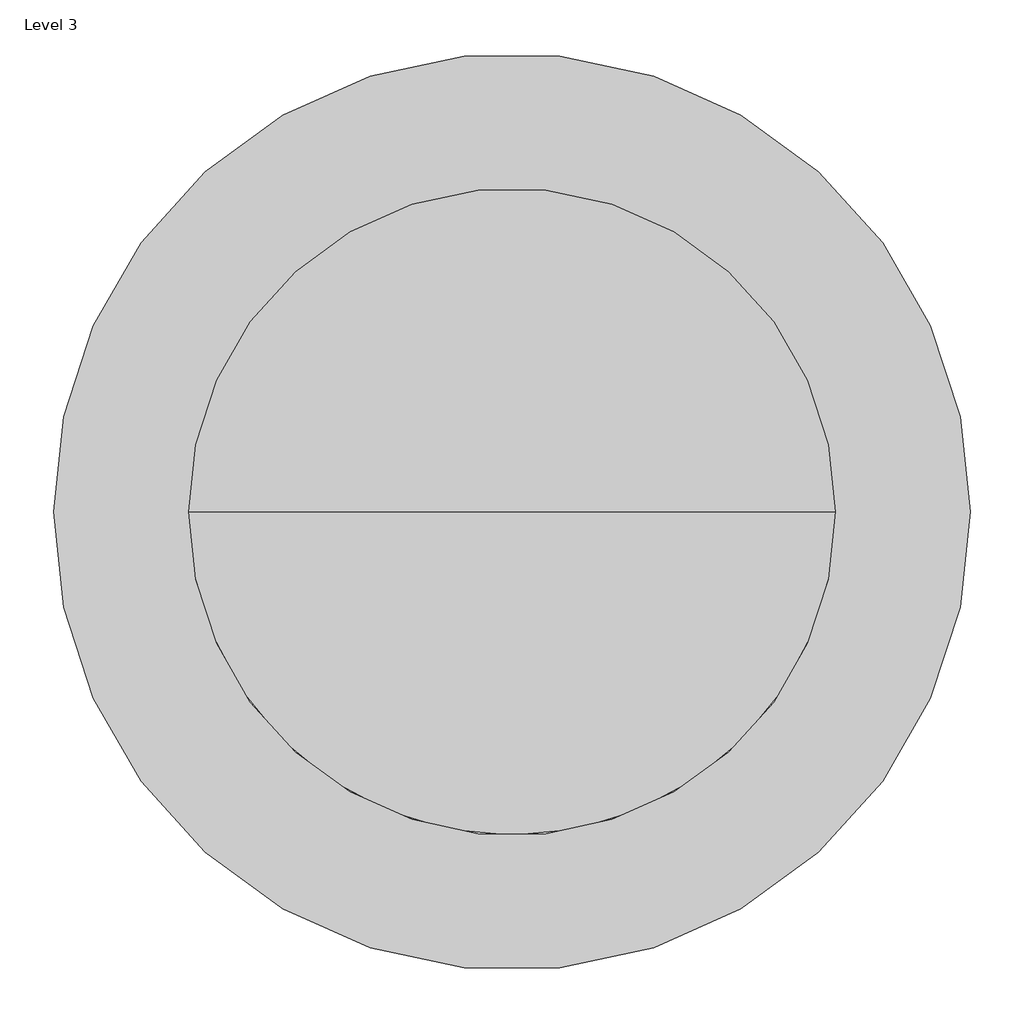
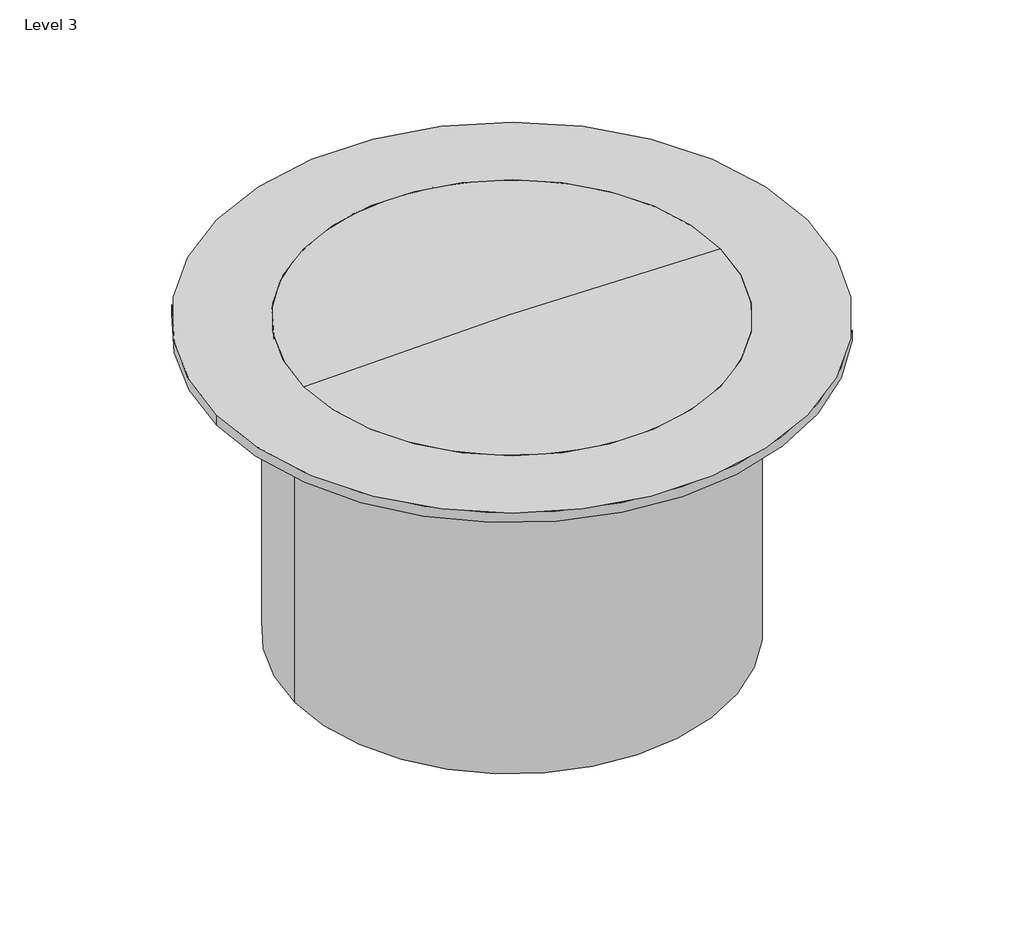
# One storey: 1 proxy.
"""IFC4 building model written with IfcOpenShell, lengths in millimetres."""

import ifcopenshell
import ifcopenshell.guid

model = None  # the IFC model being written
_history = None  # IfcOwnerHistory: only IFC2X3 demands one
_inside = {}  # id of a spatial element -> (the spatial element, [elements in it])
_under = {}  # id of a project, library or spatial element -> (it, [spatial elements below it])
_declared = {}  # id of a project -> (the project, [libraries it declares])
_typed = {}  # id of a type object -> (the type object, [elements of that type])
_made_of = {}  # id of a material, layer set ... -> (it, [elements and type objects made of it])


def new_model(schema):
    """Start an empty IFC model of exactly this schema.

    Asked for "IFC4X3", IfcOpenShell would pick the latest addendum, in which some entities
    have other attributes; the version numbers below select the first issue.
    IFC2X3 requires an IfcOwnerHistory on every rooted entity: one is made here for all.
    """
    global model, _history
    if schema == "IFC4X3":
        model = ifcopenshell.file(schema_version=(4, 3, 0, 0))
    else:
        model = ifcopenshell.file(schema=schema)
    _inside.clear()
    _under.clear()
    _declared.clear()
    _typed.clear()
    _made_of.clear()
    _history = None
    if model.schema == "IFC2X3":
        org = make("IfcOrganization", Name="unknown")
        user = make(
            "IfcPersonAndOrganization",
            ThePerson=make("IfcPerson", FamilyName="unknown"),
            TheOrganization=org,
        )
        app = make(
            "IfcApplication",
            ApplicationDeveloper=org,
            Version="unknown",
            ApplicationFullName="unknown",
            ApplicationIdentifier="unknown",
        )
        _history = make(
            "IfcOwnerHistory",
            OwningUser=user,
            OwningApplication=app,
            ChangeAction="ADDED",
            CreationDate=0,
        )
    return model


def make(cls, **values):
    """One entity of the class cls with the attributes given. An attribute that is None is left unset."""
    return model.create_entity(
        cls, **{name: value for name, value in values.items() if value is not None}
    )


def rooted(cls, **values):
    """An entity with a GlobalId (a new one), such as an element, a storey or a relation."""
    return make(cls, GlobalId=ifcopenshell.guid.new(), OwnerHistory=_history, **values)


def si_unit(unit_type, name, prefix=None):
    """IfcSIUnit, for example si_unit("LENGTHUNIT", "METRE", prefix="MILLI")."""
    return make("IfcSIUnit", UnitType=unit_type, Prefix=prefix, Name=name)


def assignment(units):
    """IfcUnitAssignment: the units of a project."""
    return None if units is None else make("IfcUnitAssignment", Units=units)


def point(xyz):
    """IfcCartesianPoint."""
    return None if xyz is None else make("IfcCartesianPoint", Coordinates=xyz)


def direction(xyz):
    """IfcDirection."""
    return None if xyz is None else make("IfcDirection", DirectionRatios=xyz)


def frame(location, z_axis=None, x_axis=None):
    """IfcAxis2Placement3D, a coordinate frame: its origin and axes. An axis left out is left unset."""
    return make(
        "IfcAxis2Placement3D",
        Location=point(location),
        Axis=direction(z_axis),
        RefDirection=direction(x_axis),
    )


def frame_2d(location, x_axis=None):
    """IfcAxis2Placement2D, a coordinate frame in the plane: its origin and x axis."""
    return make(
        "IfcAxis2Placement2D", Location=point(location), RefDirection=direction(x_axis)
    )


def origin():
    """The frame at (0, 0, 0) with its axes left unset."""
    return frame((0.0, 0.0, 0.0))


def origin_2d():
    """The frame at (0, 0) in the plane with its x axis left unset."""
    return frame_2d((0.0, 0.0))


def place(relative_to, where):
    """IfcLocalPlacement: puts the frame where relative to a parent placement (None: the world)."""
    return make(
        "IfcLocalPlacement", PlacementRelTo=relative_to, RelativePlacement=where
    )


def context(
    kind, dimensions, precision=None, world=None, true_north=None, identifier=None
):
    """IfcGeometricRepresentationContext, for example the 3D "Model" context."""
    return make(
        "IfcGeometricRepresentationContext",
        ContextIdentifier=identifier,
        ContextType=kind,
        CoordinateSpaceDimension=dimensions,
        Precision=precision,
        WorldCoordinateSystem=world,
        TrueNorth=true_north,
    )


def project(units=None, contexts=None):
    """IfcProject with its units and contexts."""
    return rooted(
        "IfcProject",
        Name="project",
        RepresentationContexts=contexts,
        UnitsInContext=assignment(units),
    )


def spatial(cls, under=None, at=None, **own):
    """A site, building, storey or space (cls), placed at a placement, below another one or the project."""
    s = rooted(cls, ObjectPlacement=at, **own)
    if under is not None:
        _under.setdefault(under.id(), (under, []))[1].append(s)
    return s


def polyline(points):
    """IfcPolyline through the points."""
    return make("IfcPolyline", Points=[point(p) for p in points])


def circle_curve(where, radius):
    """IfcCircle in the frame where."""
    return make("IfcCircle", Position=where, Radius=radius)


def ellipse_curve(where, semi_axis1, semi_axis2):
    """IfcEllipse in the frame where."""
    return make(
        "IfcEllipse", Position=where, SemiAxis1=semi_axis1, SemiAxis2=semi_axis2
    )


def trimmed(basis, trim1, trim2, sense, master):
    """IfcTrimmedCurve: the piece of a basis curve between two trims."""
    return make(
        "IfcTrimmedCurve",
        BasisCurve=basis,
        Trim1=trim1,
        Trim2=trim2,
        SenseAgreement=sense,
        MasterRepresentation=master,
    )


def segment(curve, same_sense, transition):
    """IfcCompositeCurveSegment."""
    return make(
        "IfcCompositeCurveSegment",
        Transition=transition,
        SameSense=same_sense,
        ParentCurve=curve,
    )


def composite_curve(segments, self_intersect=None):
    """IfcCompositeCurve: segments joined end to end."""
    return make("IfcCompositeCurve", Segments=segments, SelfIntersect=self_intersect)


def outline(outer, holes=None, kind="AREA"):
    """IfcArbitraryClosedProfileDef: a profile drawn as a closed curve; with holes, ...WithVoids."""
    if holes is None:
        return make("IfcArbitraryClosedProfileDef", ProfileType=kind, OuterCurve=outer)
    return make(
        "IfcArbitraryProfileDefWithVoids",
        ProfileType=kind,
        OuterCurve=outer,
        InnerCurves=holes,
    )


def extrude(swept, where, along, depth):
    """IfcExtrudedAreaSolid: the profile swept, set in the frame where, extruded along a direction by depth."""
    return make(
        "IfcExtrudedAreaSolid",
        SweptArea=swept,
        Position=where,
        ExtrudedDirection=direction(along),
        Depth=depth,
    )


def shape(context_of_items, identifier, shape_type, items):
    """IfcShapeRepresentation: the items that make up one representation, for example the "Body"."""
    return make(
        "IfcShapeRepresentation",
        ContextOfItems=context_of_items,
        RepresentationIdentifier=identifier,
        RepresentationType=shape_type,
        Items=items,
    )


def source(mapping_origin, context_of_items, identifier, shape_type, items):
    """IfcRepresentationMap: a shape defined once, which mapped items show again and again."""
    return make(
        "IfcRepresentationMap",
        MappingOrigin=mapping_origin,
        MappedRepresentation=shape(context_of_items, identifier, shape_type, items),
    )


def transform(
    local_origin,
    x_axis=None,
    y_axis=None,
    z_axis=None,
    scale=None,
    scale2=None,
    scale3=None,
    uniform=True,
):
    """IfcCartesianTransformationOperator3D, or its non-uniform kind. x_axis, y_axis, z_axis: its Axis1, 2, 3."""
    if uniform:
        return make(
            "IfcCartesianTransformationOperator3D",
            Axis1=direction(x_axis),
            Axis2=direction(y_axis),
            LocalOrigin=point(local_origin),
            Scale=scale,
            Axis3=direction(z_axis),
        )
    return make(
        "IfcCartesianTransformationOperator3DnonUniform",
        Axis1=direction(x_axis),
        Axis2=direction(y_axis),
        LocalOrigin=point(local_origin),
        Scale=scale,
        Axis3=direction(z_axis),
        Scale2=scale2,
        Scale3=scale3,
    )


def mapped(mapping_source, mapping_target):
    """IfcMappedItem: shows the shape of a source again, moved by a transform."""
    return make(
        "IfcMappedItem", MappingSource=mapping_source, MappingTarget=mapping_target
    )


def made_of(thing, what):
    """Note that an element or type object is made of a material, layer set ...; save() writes the relation."""
    if what is not None:
        _made_of.setdefault(what.id(), (what, []))[1].append(thing)
    return thing


def element(
    cls,
    number,
    at=None,
    inside=None,
    cuts=None,
    type_object=None,
    material=None,
    context=None,
    identifier="Body",
    shape_type=None,
    held_by="IfcProductDefinitionShape",
    body=None,
    shapes=None,
    **own,
):
    """One element of the class cls, such as IfcWall. Its Tag is "e" and its number.

    at: its placement. inside: the storey or other place that contains it. cuts: it is an
    opening in that element (IfcRelVoidsElement). A single representation is given by context,
    identifier, shape_type and body (its items); several are given by shapes. held_by: the class
    of the entity that holds the representations. save() writes the other relations.
    """
    e = rooted(cls, Tag="e%d" % number, ObjectPlacement=at, **own)
    if body is not None:
        shapes = [shape(context, identifier, shape_type, body)]
    if shapes is not None:
        e.Representation = make(held_by, Representations=shapes)
    if inside is not None:
        _inside.setdefault(inside.id(), (inside, []))[1].append(e)
    if cuts is not None:
        rooted(
            "IfcRelVoidsElement", RelatingBuildingElement=cuts, RelatedOpeningElement=e
        )
    if type_object is not None:
        _typed.setdefault(type_object.id(), (type_object, []))[1].append(e)
    return made_of(e, material)


def aggregate(whole, parts):
    """IfcRelAggregates: a whole, such as a stair, and the parts it consists of."""
    return rooted("IfcRelAggregates", RelatingObject=whole, RelatedObjects=parts)


def save(model, path):
    """Write the relations noted so far, then the file.

    IfcRelAggregates (storeys below a building ...), IfcRelContainedInSpatialStructure (elements
    in a storey), IfcRelDefinesByType, IfcRelAssociatesMaterial and IfcRelDeclares: one each for
    every whole, place, type object, material and project.
    """
    for whole, parts in _under.values():
        aggregate(whole, parts)
    for where, things in _inside.values():
        rooted(
            "IfcRelContainedInSpatialStructure",
            RelatedElements=things,
            RelatingStructure=where,
        )
    for kind, things in _typed.values():
        rooted("IfcRelDefinesByType", RelatedObjects=things, RelatingType=kind)
    for what, things in _made_of.values():
        rooted("IfcRelAssociatesMaterial", RelatedObjects=things, RelatingMaterial=what)
    for by, libraries in _declared.values():
        rooted("IfcRelDeclares", RelatingContext=by, RelatedDefinitions=libraries)
    model.write(path)


def plane_surface(at):
    """IfcPlane: the flat surface through the origin of the frame at, square to its z axis."""
    return make("IfcPlane", Position=at)


def cylinder_surface(at, radius):
    """IfcCylindricalSurface: all points at the distance radius from the z axis of the frame at."""
    return make("IfcCylindricalSurface", Position=at, Radius=radius)


def revolved_surface(curve, axis_point, axis_direction):
    """IfcSurfaceOfRevolution: the curve turned about the line through axis_point along axis_direction."""
    return make(
        "IfcSurfaceOfRevolution",
        SweptCurve=make("IfcArbitraryOpenProfileDef", ProfileType="CURVE", Curve=curve),
        AxisPosition=make("IfcAxis1Placement", Location=point(axis_point), Axis=direction(axis_direction)),
    )


def advanced_brep(points, edges, surfaces, faces):
    """IfcAdvancedBrep: a solid bounded by faces that lie on surfaces and meet in shared edges.

    An edge is (start, end): straight between two places in points (the first is 0);
    or (start, end, curve); or (start, end, curve, False) where it runs against its curve.
    A face is (place in surfaces, loops), or (place, loops, False) where it looks against
    its surface's normal. A loop lists edges by number (the first is 1), with a minus sign
    where the edge is run from its end to its start. The first loop is the outer one.
    """
    corners = [point(p) for p in points]
    vertices = [make("IfcVertexPoint", VertexGeometry=c) for c in corners]
    made = []
    for start, end, *more in edges:
        made.append(
            make(
                "IfcEdgeCurve",
                EdgeStart=vertices[start],
                EdgeEnd=vertices[end],
                EdgeGeometry=more[0] if more else make("IfcPolyline", Points=[corners[start], corners[end]]),
                SameSense=more[1] if len(more) > 1 else True,
            )
        )
    hull = []
    for where, loops, *sense in faces:
        bounds = []
        for j, loop in enumerate(loops):
            ring = [make("IfcOrientedEdge", EdgeElement=made[abs(k) - 1], Orientation=k > 0) for k in loop]
            bounds.append(
                make(
                    "IfcFaceOuterBound" if j == 0 else "IfcFaceBound",
                    Bound=make("IfcEdgeLoop", EdgeList=ring),
                    Orientation=True,
                )
            )
        hull.append(make("IfcAdvancedFace", Bounds=bounds, FaceSurface=surfaces[where], SameSense=sense[0] if sense else True))
    return make("IfcAdvancedBrep", Outer=make("IfcClosedShell", CfsFaces=hull))


def specialty_equipment_5184973a(model_context):
    return source(origin(), model_context, "Body", "SolidModel", [
        extrude(outline(composite_curve([segment(trimmed(circle_curve(origin_2d(), 425.0), [point((-425.0, 0.0))], [point((425.0, 0.0))], False, "CARTESIAN"), True, "CONTINUOUS"), segment(trimmed(circle_curve(origin_2d(), 425.0), [point((425.0, 0.0))], [point((-425.0, 0.0))], False, "CARTESIAN"), True, "CONTINUOUS")], self_intersect=False), holes=[composite_curve([segment(trimmed(circle_curve(origin_2d(), 300.0), [point((-300.0, 0.0))], [point((300.0, 0.0))], True, "CARTESIAN"), True, "CONTINUOUS"), segment(trimmed(circle_curve(origin_2d(), 300.0), [point((300.0, 0.0))], [point((-300.0, 0.0))], True, "CARTESIAN"), True, "CONTINUOUS")], self_intersect=False)]), frame((0.0, 0.0, -14.9500624), z_axis=(0.0, 0.0, 1.0), x_axis=(1.0, 0.0, 0.0)), (0.0, 0.0, 1.0), 14.9500624),
        advanced_brep(
        [(0.0, 0.0, -14.9500624), (-300.0, 0.0, -14.9500624), (300.0, 0.0, -14.9500624), (300.0, 0.0, 0.0), (-300.0, 0.0, 0.0), (0.0, 0.0, 6.1740495)],
        [
            (0, 1),
            (1, 2, circle_curve(frame((0.0, 0.0, -14.9500624), z_axis=(0.0, 0.0, -1.0), x_axis=(-1.0, 0.0, 0.0)), 300.0)),
            (2, 0),
            (2, 1, circle_curve(frame((0.0, 0.0, -14.9500624), z_axis=(0.0, 0.0, -1.0), x_axis=(-1.0, 0.0, 0.0)), 300.0)),
            (3, 4, circle_curve(frame((0.0, 0.0, 0.0), z_axis=(0.0, 0.0, 1.0), x_axis=(-1.0, 0.0, 0.0)), 300.0)),
            (4, 5, circle_curve(frame((0.0, 0.0, -7285.4842816), z_axis=(0.0, 1.0, 0.0), x_axis=(1.0, 0.0, 0.0)), 7291.6583311)),
            (5, 3, circle_curve(frame((0.0, 0.0, -7285.4842816), z_axis=(0.0, 1.0, 0.0), x_axis=(-1.0, 0.0, 0.0)), 7291.6583311)),
            (4, 3, circle_curve(frame((0.0, 0.0, 0.0), z_axis=(0.0, 0.0, 1.0), x_axis=(-1.0, 0.0, 0.0)), 300.0)),
            (1, 4),
            (3, 2),
        ],
        [
            plane_surface(frame((0.0, 0.0, -14.9500624), z_axis=(0.0, 0.0, -1.0), x_axis=(-1.0, 0.0, 0.0))),
            revolved_surface(trimmed(ellipse_curve(frame((0.0, 0.0, -7285.4842816), z_axis=(0.0, -1.0, 0.0), x_axis=(1.0, 0.0, 0.0)), 7291.6583311, 7291.6583311), [point((0.0, 0.0, 6.1740495))], [point((-300.0, 0.0, 0.0))], True, "CARTESIAN"), (0.0, 0.0, -119.9500624), (0.0, 0.0, -1.0)),
            cylinder_surface(frame((0.0, 0.0, -119.9500624), z_axis=(0.0, 0.0, -1.0), x_axis=(-1.0, 0.0, 0.0)), 300.0),
        ],
        [
            (0, [[1, 2, 3]]),
            (0, [[-3, 4, -1]]),
            (1, [[5, 6, 7]]),
            (1, [[8, -7, -6]]),
            (2, [[-2, 9, -5, 10]]),
            (2, [[-4, -10, -8, -9]]),
        ],
    ),
        extrude(outline(composite_curve([segment(trimmed(circle_curve(origin_2d(), 313.0), [point((-313.0, 0.0))], [point((313.0, 0.0))], False, "CARTESIAN"), True, "CONTINUOUS"), segment(trimmed(circle_curve(origin_2d(), 313.0), [point((313.0, 0.0))], [point((-313.0, 0.0))], False, "CARTESIAN"), True, "CONTINUOUS")], self_intersect=False), holes=[composite_curve([segment(trimmed(circle_curve(origin_2d(), 300.0), [point((-300.0, 0.0))], [point((300.0, 0.0))], True, "CARTESIAN"), True, "CONTINUOUS"), segment(trimmed(circle_curve(origin_2d(), 300.0), [point((300.0, 0.0))], [point((-300.0, 0.0))], True, "CARTESIAN"), True, "CONTINUOUS")], self_intersect=False)]), frame((0.0, 0.0, -476.0), z_axis=(0.0, 0.0, 1.0), x_axis=(1.0, 0.0, 0.0)), (0.0, 0.0, 1.0), 461.0499376),
        extrude(outline(polyline([(-42.0990731, 0.0), (0.0, 0.0), (-42.0990731, -57.1373839), (-42.0990731, 0.0)])), frame((298.912638, -92.9797552, -57.0491355), z_axis=(0.2817325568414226, 0.9594929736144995, 0.0), x_axis=(0.0, 0.0, -1.0)), (0.0, 0.0, 1.0), 10.0),
        extrude(outline(polyline([(-42.0990731, 0.0), (0.0, 0.0), (-42.0990731, -57.137384), (-42.0990731, 0.0)])), frame((260.6091517, -173.4268435, -57.0491355), z_axis=(0.5406408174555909, 0.8412535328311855, 0.0), x_axis=(0.0, 0.0, -1.0)), (0.0, 0.0, 1.0), 10.0),
        extrude(outline(polyline([(-42.0990731, 0.0), (0.0, 0.0), (-42.0990731, -57.137384), (-42.0990731, 0.0)])), frame((201.1926619, -239.8239204, -57.0491355), z_axis=(0.7557495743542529, 0.6548607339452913, 0.0), x_axis=(0.0, 0.0, -1.0)), (0.0, 0.0, 1.0), 10.0),
        extrude(outline(polyline([(-42.0990731, 0.0), (0.0, 0.0), (-42.0990731, -57.137384), (-42.0990731, 0.0)])), frame((125.4767391, -286.7918896, -57.0491355), z_axis=(0.9096319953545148, 0.4154150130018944, 0.0), x_axis=(0.0, 0.0, -1.0)), (0.0, 0.0, 1.0), 10.0),
        extrude(outline(polyline([(-42.0990731, 0.0), (0.0, 0.0), (-42.0990731, -57.137384), (-42.0990731, 0.0)])), frame((39.5954372, -310.5256855, -57.0491355), z_axis=(0.9898214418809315, 0.1423148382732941, 0.0), x_axis=(0.0, 0.0, -1.0)), (0.0, 0.0, 1.0), 10.0),
        extrude(outline(polyline([(42.0990731, 0.0), (42.0990731, -57.137384), (0.0, 0.0), (42.0990731, 0.0)])), frame((-39.5954372, -310.5256855, -57.0491355), z_axis=(-0.9898214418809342, 0.14231483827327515, 0.0), x_axis=(0.0, 0.0, 1.0)), (0.0, 0.0, 1.0), 10.0),
        extrude(outline(polyline([(42.0990731, 0.0), (42.0990731, -57.137384), (0.0, 0.0), (42.0990731, 0.0)])), frame((-125.4767391, -286.7918896, -57.0491355), z_axis=(-0.9096319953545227, 0.41541501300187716, 0.0), x_axis=(0.0, 0.0, 1.0)), (0.0, 0.0, 1.0), 10.0),
        extrude(outline(polyline([(42.0990731, 0.0), (42.0990731, -57.137384), (0.0, 0.0), (42.0990731, 0.0)])), frame((-201.1926619, -239.8239204, -57.0491355), z_axis=(-0.7557495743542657, 0.6548607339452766, 0.0), x_axis=(0.0, 0.0, 1.0)), (0.0, 0.0, 1.0), 10.0),
        extrude(outline(polyline([(42.0990731, 0.0), (42.0990731, -57.137384), (0.0, 0.0), (42.0990731, 0.0)])), frame((-260.6091517, -173.4268435, -57.0491355), z_axis=(-0.5406408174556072, 0.8412535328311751, 0.0), x_axis=(0.0, 0.0, 1.0)), (0.0, 0.0, 1.0), 10.0),
        extrude(outline(polyline([(42.0990731, 0.0), (42.0990731, -57.1373839), (0.0, 0.0), (42.0990731, 0.0)])), frame((-298.912638, -92.9797552, -57.0491355), z_axis=(-0.28173255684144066, 0.9594929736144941, 0.0), x_axis=(0.0, 0.0, 1.0)), (0.0, 0.0, 1.0), 10.0),
        extrude(outline(polyline([(0.0, 0.0), (0.0, -42.0990731), (-57.137384, 0.0), (0.0, 0.0)])), frame((301.7299635, 83.3848254, -14.9500624), z_axis=(-0.2817325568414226, 0.9594929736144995, 0.0), x_axis=(-0.9594929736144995, -0.2817325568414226, 0.0)), (0.0, 0.0, 1.0), 10.0),
        extrude(outline(polyline([(0.0, 0.0), (0.0, -42.0990731), (-57.137384, 0.0), (0.0, 0.0)])), frame((266.0155599, 165.0143082, -14.9500624), z_axis=(-0.5406408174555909, 0.8412535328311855, 0.0), x_axis=(-0.8412535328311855, -0.5406408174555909, 0.0)), (0.0, 0.0, 1.0), 10.0),
        extrude(outline(polyline([(0.0, 0.0), (0.0, -42.0990731), (-57.137384, 0.0), (0.0, 0.0)])), frame((208.7501576, 233.2753131, -14.9500624), z_axis=(-0.7557495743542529, 0.6548607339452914, 0.0), x_axis=(-0.6548607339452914, -0.7557495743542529, 0.0)), (0.0, 0.0, 1.0), 10.0),
        extrude(outline(polyline([(0.0, 0.0), (0.0, -42.0990731), (-57.137384, 0.0), (0.0, 0.0)])), frame((134.573059, 282.6377395, -14.9500624), z_axis=(-0.9096319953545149, 0.4154150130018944, 0.0), x_axis=(-0.4154150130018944, -0.9096319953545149, 0.0)), (0.0, 0.0, 1.0), 10.0),
        extrude(outline(polyline([(0.0, 0.0), (0.0, -42.0990731), (-57.137384, 0.0), (0.0, 0.0)])), frame((49.4936516, 309.1025371, -14.9500624), z_axis=(-0.9898214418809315, 0.1423148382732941, 0.0), x_axis=(-0.1423148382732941, -0.9898214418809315, 0.0)), (0.0, 0.0, 1.0), 10.0),
        extrude(outline(polyline([(0.0, 0.0), (57.137384, 0.0), (0.0, -42.0990731), (0.0, 0.0)])), frame((-49.4936516, 309.1025371, -14.9500624), z_axis=(0.9898214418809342, 0.14231483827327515, 0.0), x_axis=(-0.14231483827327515, 0.9898214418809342, 0.0)), (0.0, 0.0, 1.0), 10.0),
        extrude(outline(polyline([(0.0, 0.0), (57.137384, 0.0), (0.0, -42.0990731), (0.0, 0.0)])), frame((-134.573059, 282.6377395, -14.9500624), z_axis=(0.9096319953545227, 0.4154150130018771, 0.0), x_axis=(-0.4154150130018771, 0.9096319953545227, 0.0)), (0.0, 0.0, 1.0), 10.0),
        extrude(outline(polyline([(0.0, 0.0), (57.137384, 0.0), (0.0, -42.0990731), (0.0, 0.0)])), frame((-208.7501576, 233.2753131, -14.9500624), z_axis=(0.7557495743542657, 0.6548607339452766, 0.0), x_axis=(-0.6548607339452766, 0.7557495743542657, 0.0)), (0.0, 0.0, 1.0), 10.0),
        extrude(outline(polyline([(0.0, 0.0), (57.137384, 0.0), (0.0, -42.0990731), (0.0, 0.0)])), frame((-266.0155599, 165.0143082, -14.9500624), z_axis=(0.5406408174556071, 0.841253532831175, 0.0), x_axis=(-0.841253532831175, 0.5406408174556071, 0.0)), (0.0, 0.0, 1.0), 10.0),
        extrude(outline(polyline([(0.0, 0.0), (57.137384, 0.0), (0.0, -42.0990731), (0.0, 0.0)])), frame((-301.7299635, 83.3848254, -14.9500624), z_axis=(0.2817325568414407, 0.9594929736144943, 0.0), x_axis=(-0.9594929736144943, 0.2817325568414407, 0.0)), (0.0, 0.0, 1.0), 10.0),
        extrude(outline(polyline([(-14.9500624, 313.0), (-57.0491355, 313.0), (-14.9500624, 370.137384), (-14.9500624, 313.0)])), frame((0.0, -5.0, 0.0), z_axis=(0.0, 1.0, 0.0), x_axis=(0.0, 0.0, 1.0)), (0.0, 0.0, 1.0), 10.0),
        extrude(outline(polyline([(-14.9500624, -313.0), (-14.9500624, -370.137384), (-57.0491355, -313.0), (-14.9500624, -313.0)])), frame((0.0, -5.0, 0.0), z_axis=(0.0, 1.0, 0.0), x_axis=(0.0, 0.0, 1.0)), (0.0, 0.0, 1.0), 10.0),
    ])


model = new_model("IFC4")

# Units and contexts
model_context = context("Model", 3, world=origin())
ifc_project = project(units=[si_unit("LENGTHUNIT", "METRE", prefix="MILLI")], contexts=[model_context])

# Site, building, storey
site = spatial("IfcSite", under=ifc_project)
building = spatial("IfcBuilding", under=site)
storey = spatial("IfcBuildingStorey", under=building, Name="Level 3", Elevation=2430.0)

# Proxy
placement = place(None, origin())
specialty_equipment_shape = specialty_equipment_5184973a(model_context)
element("IfcBuildingElementProxy", 1, Name="GRAF Tele Dome 600 Maxi : 600 Maxi", ObjectType="GRAF Tele Dome 600 Maxi : 600 Maxi", at=placement, inside=storey, context=model_context, shape_type="MappedRepresentation", body=[
    mapped(specialty_equipment_shape, transform((5829.8797995, 1449.0232018, 2730.0), x_axis=(1.0, 0.0, 0.0), y_axis=(0.0, 1.0, 0.0), z_axis=(0.0, 0.0, 1.0))),
])

save(model, "model.ifc")
